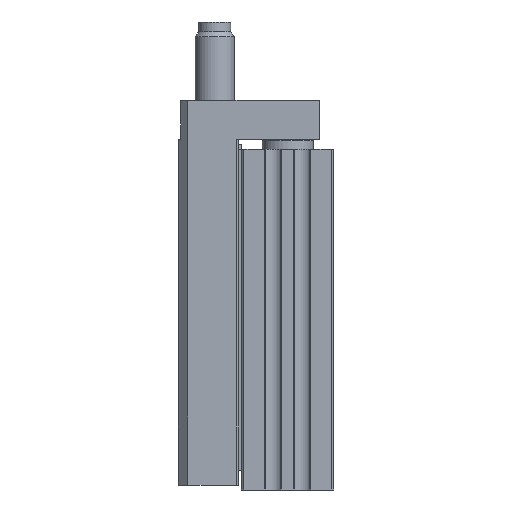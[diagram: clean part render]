
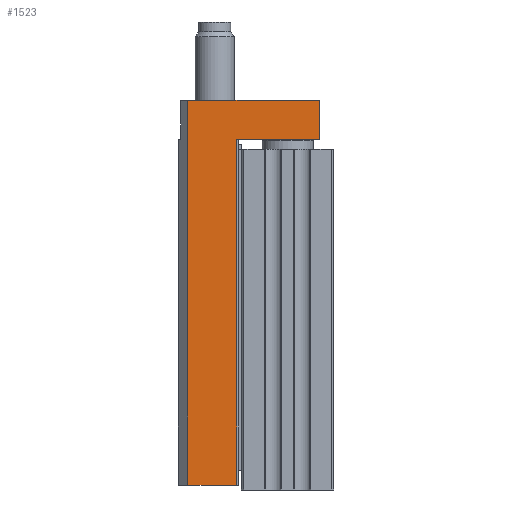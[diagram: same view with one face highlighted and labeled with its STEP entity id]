
A CAD part, left-side view. The second image highlights one B-rep face of the part: STEP entity #1523.
In plain terms, the highlighted planar face has unit normal (-1, 0, 0).
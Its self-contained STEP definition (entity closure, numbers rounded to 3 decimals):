
#1523 = ADVANCED_FACE( '', ( #3210 ), #3211, .T. );
#3210 = FACE_OUTER_BOUND( '', #4905, .T. );
#3211 = PLANE( '', #4906 );
#4905 = EDGE_LOOP( '', ( #8913, #8914, #8915, #8916, #8917, #8918 ) );
#4906 = AXIS2_PLACEMENT_3D( '', #8919, #8920, #8921 );
#8913 = ORIENTED_EDGE( '', *, *, #10620, .T. );
#8914 = ORIENTED_EDGE( '', *, *, #10552, .T. );
#8915 = ORIENTED_EDGE( '', *, *, #10504, .F. );
#8916 = ORIENTED_EDGE( '', *, *, #9580, .F. );
#8917 = ORIENTED_EDGE( '', *, *, #10562, .F. );
#8918 = ORIENTED_EDGE( '', *, *, #10070, .T. );
#8919 = CARTESIAN_POINT( '', ( -25., 30., -71. ) );
#8920 = DIRECTION( '', ( -1., 0., 0. ) );
#8921 = DIRECTION( '', ( 0., 0., 1. ) );
#9580 = EDGE_CURVE( '', #11479, #11481, #11482, .T. );
#10070 = EDGE_CURVE( '', #12222, #12244, #12246, .T. );
#10504 = EDGE_CURVE( '', #11481, #12827, #12829, .T. );
#10552 = EDGE_CURVE( '', #12889, #12827, #12890, .T. );
#10562 = EDGE_CURVE( '', #12222, #11479, #12902, .T. );
#10620 = EDGE_CURVE( '', #12244, #12889, #12970, .T. );
#11479 = VERTEX_POINT( '', #14106 );
#11481 = VERTEX_POINT( '', #14109 );
#11482 = LINE( '', #14110, #14111 );
#12222 = VERTEX_POINT( '', #15152 );
#12244 = VERTEX_POINT( '', #15187 );
#12246 = LINE( '', #15190, #15191 );
#12827 = VERTEX_POINT( '', #15975 );
#12829 = LINE( '', #15978, #15979 );
#12889 = VERTEX_POINT( '', #16066 );
#12890 = LINE( '', #16067, #16068 );
#12902 = LINE( '', #16084, #16085 );
#12970 = LINE( '', #16178, #16179 );
#14106 = CARTESIAN_POINT( '', ( -25., 30., 8. ) );
#14109 = CARTESIAN_POINT( '', ( -25., 3., 8. ) );
#14110 = CARTESIAN_POINT( '', ( -25., 30., 8. ) );
#14111 = VECTOR( '', #16799, 1000. );
#15152 = CARTESIAN_POINT( '', ( -25., 30., -71. ) );
#15187 = CARTESIAN_POINT( '', ( -25., 20., -71. ) );
#15190 = CARTESIAN_POINT( '', ( -25., 30., -71. ) );
#15191 = VECTOR( '', #17289, 1000. );
#15975 = CARTESIAN_POINT( '', ( -25., 3., 0. ) );
#15978 = CARTESIAN_POINT( '', ( -25., 3., 8. ) );
#15979 = VECTOR( '', #17683, 1000. );
#16066 = CARTESIAN_POINT( '', ( -25., 20., 0. ) );
#16067 = CARTESIAN_POINT( '', ( -25., 30., 0. ) );
#16068 = VECTOR( '', #17729, 1000. );
#16084 = CARTESIAN_POINT( '', ( -25., 30., -71. ) );
#16085 = VECTOR( '', #17737, 1000. );
#16178 = CARTESIAN_POINT( '', ( -25., 20., -71. ) );
#16179 = VECTOR( '', #17781, 1000. );
#16799 = DIRECTION( '', ( 0., -1., 0. ) );
#17289 = DIRECTION( '', ( 0., -1., 0. ) );
#17683 = DIRECTION( '', ( 0., 0., -1. ) );
#17729 = DIRECTION( '', ( 0., -1., 0. ) );
#17737 = DIRECTION( '', ( 0., 0., 1. ) );
#17781 = DIRECTION( '', ( 0., 0., 1. ) );
